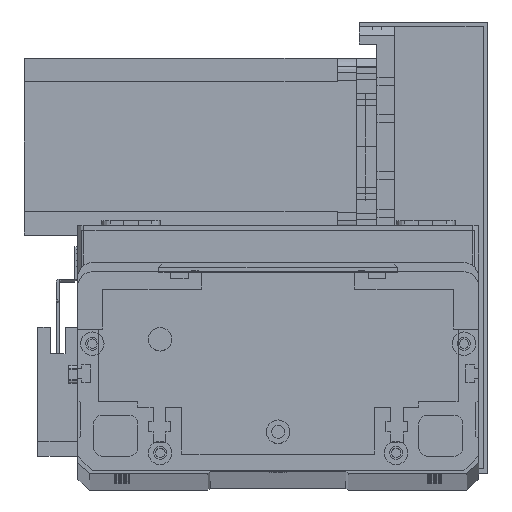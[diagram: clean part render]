
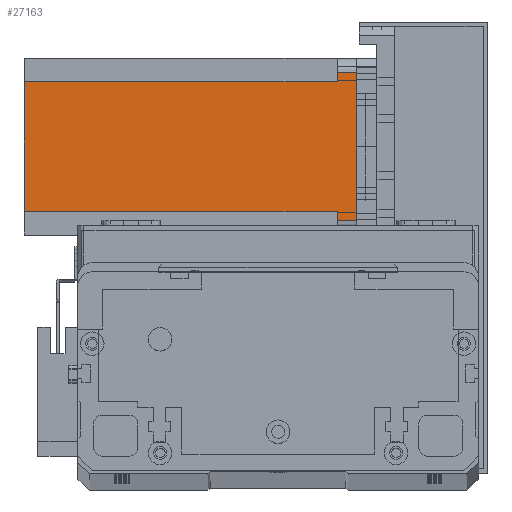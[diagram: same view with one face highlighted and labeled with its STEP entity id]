
A CAD part, top view. The second image highlights one B-rep face of the part: STEP entity #27163.
In plain terms, the highlighted planar face has unit normal (0, 0, 1) as drawn and (0, 1, 0) by its records, which use the part's own axes.
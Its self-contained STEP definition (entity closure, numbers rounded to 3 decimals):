
#466 = ORIENTED_EDGE ( 'NONE', *, *, #27260, .T. ) ;
#969 = CARTESIAN_POINT ( 'NONE',  ( 52., 60., -6.5 ) ) ;
#1245 = EDGE_CURVE ( 'NONE', #1732, #11084, #23547, .T. ) ;
#1580 = DIRECTION ( 'NONE',  ( 0., 0., 1. ) ) ;
#1732 = VERTEX_POINT ( 'NONE', #13445 ) ;
#1739 = VERTEX_POINT ( 'NONE', #13516 ) ;
#1762 = DIRECTION ( 'NONE',  ( -1., 0., 0. ) ) ;
#1828 = LINE ( 'NONE', #14004, #27007 ) ;
#2209 = EDGE_LOOP ( 'NONE', ( #16875, #17531, #21372, #23365, #25897, #28112, #30013, #466 ) ) ;
#3424 = CARTESIAN_POINT ( 'NONE',  ( 0., 60., -112.5 ) ) ;
#3595 = VERTEX_POINT ( 'NONE', #8873 ) ;
#4292 = CARTESIAN_POINT ( 'NONE',  ( 8., 60., -6.5 ) ) ;
#5748 = FACE_OUTER_BOUND ( 'NONE', #2209, .T. ) ;
#7044 = LINE ( 'NONE', #20695, #7835 ) ;
#7468 = AXIS2_PLACEMENT_3D ( 'NONE', #3424, #11046, #27798 ) ;
#7579 = EDGE_CURVE ( 'NONE', #1732, #8121, #16703, .T. ) ;
#7835 = VECTOR ( 'NONE', #20309, 1000. ) ;
#8121 = VERTEX_POINT ( 'NONE', #20375 ) ;
#8194 = LINE ( 'NONE', #15247, #21103 ) ;
#8630 = DIRECTION ( 'NONE',  ( 0., 0., -1. ) ) ;
#8873 = CARTESIAN_POINT ( 'NONE',  ( 5., 60., -6.5 ) ) ;
#9110 = VECTOR ( 'NONE', #1762, 1000. ) ;
#10639 = VECTOR ( 'NONE', #8630, 1000. ) ;
#10978 = EDGE_CURVE ( 'NONE', #23635, #8121, #7044, .T. ) ;
#11046 = DIRECTION ( 'NONE',  ( 0., 1., 0. ) ) ;
#11084 = VERTEX_POINT ( 'NONE', #15152 ) ;
#11633 = EDGE_CURVE ( 'NONE', #30598, #23635, #8194, .T. ) ;
#12586 = LINE ( 'NONE', #24772, #18976 ) ;
#13445 = CARTESIAN_POINT ( 'NONE',  ( 55., 60., 0. ) ) ;
#13516 = CARTESIAN_POINT ( 'NONE',  ( 8., 60., -112.5 ) ) ;
#13537 = VERTEX_POINT ( 'NONE', #19912 ) ;
#14004 = CARTESIAN_POINT ( 'NONE',  ( 5., 60., -112.5 ) ) ;
#15144 = DIRECTION ( 'NONE',  ( 0., 0., 1. ) ) ;
#15152 = CARTESIAN_POINT ( 'NONE',  ( 5., 60., 0. ) ) ;
#15247 = CARTESIAN_POINT ( 'NONE',  ( 52., 60., -112.5 ) ) ;
#16450 = EDGE_CURVE ( 'NONE', #30598, #1739, #12586, .T. ) ;
#16703 = LINE ( 'NONE', #21196, #23821 ) ;
#16875 = ORIENTED_EDGE ( 'NONE', *, *, #1245, .F. ) ;
#17531 = ORIENTED_EDGE ( 'NONE', *, *, #7579, .T. ) ;
#18976 = VECTOR ( 'NONE', #27064, 1000. ) ;
#19912 = CARTESIAN_POINT ( 'NONE',  ( 8., 60., -6.5 ) ) ;
#20309 = DIRECTION ( 'NONE',  ( 1., 0., 0. ) ) ;
#20375 = CARTESIAN_POINT ( 'NONE',  ( 55., 60., -6.5 ) ) ;
#20680 = CARTESIAN_POINT ( 'NONE',  ( 8., 60., -112.5 ) ) ;
#20695 = CARTESIAN_POINT ( 'NONE',  ( 52., 60., -6.5 ) ) ;
#20875 = DIRECTION ( 'NONE',  ( 0., 0., -1. ) ) ;
#21103 = VECTOR ( 'NONE', #15144, 1000. ) ;
#21196 = CARTESIAN_POINT ( 'NONE',  ( 55., 60., -112.5 ) ) ;
#21234 = EDGE_CURVE ( 'NONE', #13537, #1739, #24209, .T. ) ;
#21372 = ORIENTED_EDGE ( 'NONE', *, *, #10978, .F. ) ;
#22863 = CARTESIAN_POINT ( 'NONE',  ( 52., 60., -112.5 ) ) ;
#23365 = ORIENTED_EDGE ( 'NONE', *, *, #11633, .F. ) ;
#23547 = LINE ( 'NONE', #28851, #29083 ) ;
#23635 = VERTEX_POINT ( 'NONE', #969 ) ;
#23821 = VECTOR ( 'NONE', #20875, 1000. ) ;
#24209 = LINE ( 'NONE', #20680, #10639 ) ;
#24772 = CARTESIAN_POINT ( 'NONE',  ( 0., 60., -112.5 ) ) ;
#24895 = EDGE_CURVE ( 'NONE', #13537, #3595, #28295, .T. ) ;
#25444 = PLANE ( 'NONE',  #7468 ) ;
#25897 = ORIENTED_EDGE ( 'NONE', *, *, #16450, .T. ) ;
#27007 = VECTOR ( 'NONE', #1580, 1000. ) ;
#27064 = DIRECTION ( 'NONE',  ( -1., 0., 0. ) ) ;
#27163 = ADVANCED_FACE ( 'NONE', ( #5748 ), #25444, .T. ) ;
#27260 = EDGE_CURVE ( 'NONE', #3595, #11084, #1828, .T. ) ;
#27798 = DIRECTION ( 'NONE',  ( 0., 0., 1. ) ) ;
#28112 = ORIENTED_EDGE ( 'NONE', *, *, #21234, .F. ) ;
#28295 = LINE ( 'NONE', #4292, #9110 ) ;
#28851 = CARTESIAN_POINT ( 'NONE',  ( 0., 60., 0. ) ) ;
#28958 = DIRECTION ( 'NONE',  ( -1., 0., 0. ) ) ;
#29083 = VECTOR ( 'NONE', #28958, 1000. ) ;
#30013 = ORIENTED_EDGE ( 'NONE', *, *, #24895, .T. ) ;
#30598 = VERTEX_POINT ( 'NONE', #22863 ) ;
